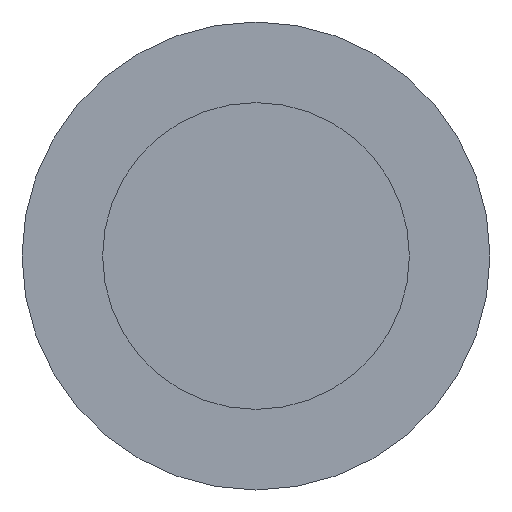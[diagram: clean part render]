
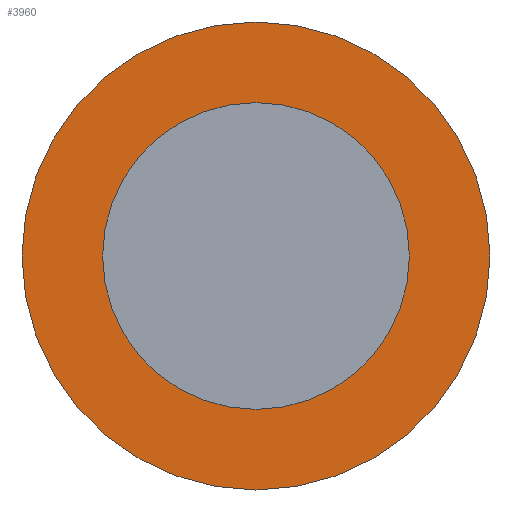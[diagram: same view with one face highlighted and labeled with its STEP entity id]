
A CAD part, left-side view. The second image highlights one B-rep face of the part: STEP entity #3960.
In plain terms, the highlighted planar face has unit normal (-1, 0, 0).
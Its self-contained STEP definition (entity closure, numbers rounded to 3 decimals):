
#3480=CARTESIAN_POINT('',(72.134,118.798,
0.));
#3490=VERTEX_POINT('',#3480);
#3570=CARTESIAN_POINT('',(72.134,136.798,0.));
#3580=VERTEX_POINT('',#3570);
#3610=CARTESIAN_POINT('',(72.134,127.798,0.));
#3620=DIRECTION('',(1.,0.,0.));
#3630=DIRECTION('',(0.,1.,0.));
#3640=AXIS2_PLACEMENT_3D('',#3610,#3620,#3630);
#3650=CIRCLE('',#3640,9.);
#3660=EDGE_CURVE('',#3490,#3580,#3650,.T.);
#3710=CARTESIAN_POINT('',(72.134,135.248,0.));
#3720=DIRECTION('',(1.,0.,0.));
#3730=DIRECTION('',(0.,-1.,0.));
#3740=AXIS2_PLACEMENT_3D('',#3710,#3720,#3730);
#3750=PLANE('',#3740);
#3760=CARTESIAN_POINT('',(72.134,127.798,0.));
#3770=DIRECTION('',(1.,0.,0.));
#3780=DIRECTION('',(0.,1.,0.));
#3790=AXIS2_PLACEMENT_3D('',#3760,#3770,#3780);
#3800=CIRCLE('',#3790,5.9);
#3810=CARTESIAN_POINT('',(72.134,133.698,
0.));
#3820=VERTEX_POINT('',#3810);
#3830=CARTESIAN_POINT('',(72.134,121.898,0.));
#3840=VERTEX_POINT('',#3830);
#3850=EDGE_CURVE('',#3820,#3840,#3800,.T.);
#3860=ORIENTED_EDGE('',*,*,#3850,.T.);
#3870=EDGE_CURVE('',#3840,#3820,#3800,.T.);
#3880=ORIENTED_EDGE('',*,*,#3870,.T.);
#3890=EDGE_LOOP('',(#3880,#3860));
#3900=FACE_BOUND('',#3890,.T.);
#3910=EDGE_CURVE('',#3580,#3490,#3650,.T.);
#3920=ORIENTED_EDGE('',*,*,#3910,.F.);
#3930=ORIENTED_EDGE('',*,*,#3660,.F.);
#3940=EDGE_LOOP('',(#3930,#3920));
#3950=FACE_OUTER_BOUND('',#3940,.T.);
#3960=ADVANCED_FACE('',(#3900,#3950),#3750,.F.);
